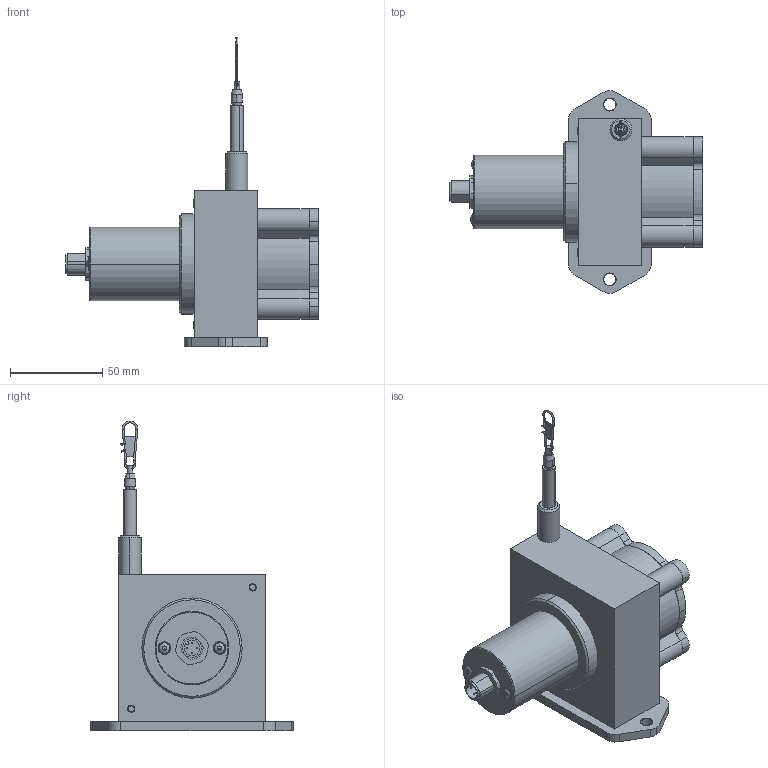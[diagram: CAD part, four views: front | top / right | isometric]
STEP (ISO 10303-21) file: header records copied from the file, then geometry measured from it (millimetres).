
FILE_DESCRIPTION (( 'STEP AP214' ), '1' );
FILE_NAME ('D8.3B1.0200.A333.0000.STEP', '2010-11-24T11:08:11', ( 'admin' ), ( 'Fritz Kübler GmbH' ), 'SwSTEP 2.0', 'SolidWorks 2009', '' );
FILE_SCHEMA (( 'AUTOMOTIVE_DESIGN' ));
Length unit declared in the file: millimetre
Products named in the file (1): D8.3B1.0200.A333.0000
Bounding box: 137.25 x 110 x 168.32 mm (x, y, z)
Surface area: 59795.6 mm2 (no closed solid volume)
Topology: 0 solids, 28 shells, 363 faces, 1075 edges, 723 vertices
Faces by surface type: plane 175, cylinder 112, cone 40, torus 27, bspline 6, sphere 3
Entity records: 19865 total; most frequent: CARTESIAN_POINT 6429, ORIENTED_EDGE 1922, DIRECTION 1900, EDGE_CURVE 1061, VERTEX_POINT 721, AXIS2_PLACEMENT_3D 690, VECTOR 520, LINE 520
